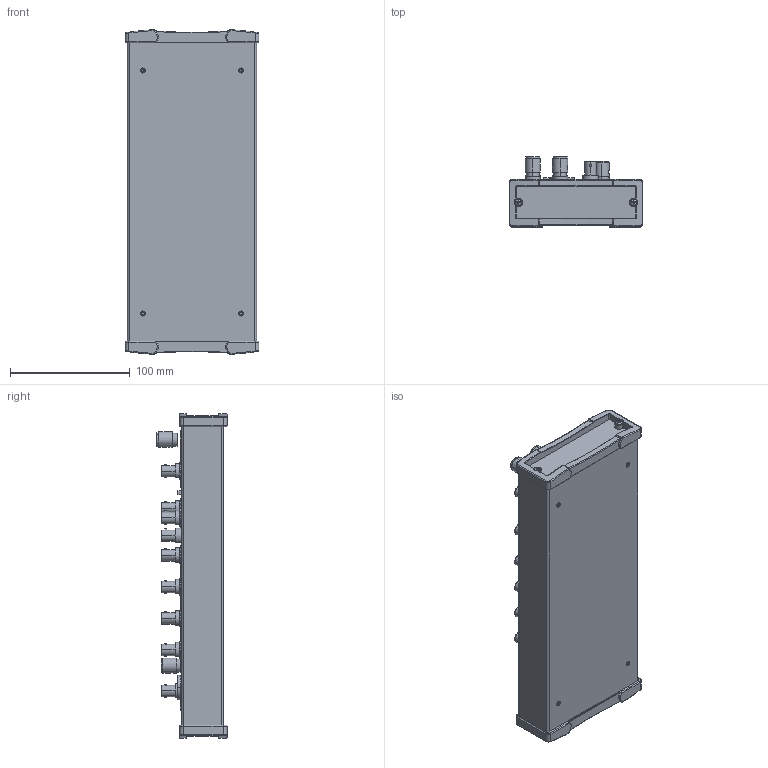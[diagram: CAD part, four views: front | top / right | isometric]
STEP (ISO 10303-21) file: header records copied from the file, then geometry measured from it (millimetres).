
FILE_DESCRIPTION((''),'2;1');
FILE_NAME('CD_BNC-2120','2008-01-15T',('scarrasc'),(''),'PRO/ENGINEER BY PARAMETRIC TECHNOLOGY CORPORATION, 2006080','PRO/ENGINEER BY PARAMETRIC TECHNOLOGY CORPORATION, 2006080','');
FILE_SCHEMA(('CONFIG_CONTROL_DESIGN'));
Products named in the file (1): CD_BNC-2120
Bounding box: 112.01 x 58.54 x 271.49 mm (x, y, z)
Volume: 368386.1 mm3; surface area: 269348.9 mm2
Topology: 33 solids, 33 shells, 3091 faces, 7577 edges, 4850 vertices
Faces by surface type: plane 1773, cylinder 1064, bspline 128, torus 60, cone 42, sphere 24
Entity records: 101667 total; most frequent: CARTESIAN_POINT 27996, DIRECTION 15287, ORIENTED_EDGE 14962, EDGE_CURVE 7481, AXIS2_PLACEMENT_3D 5313, VERTEX_POINT 4926, VECTOR 4661, LINE 4661
